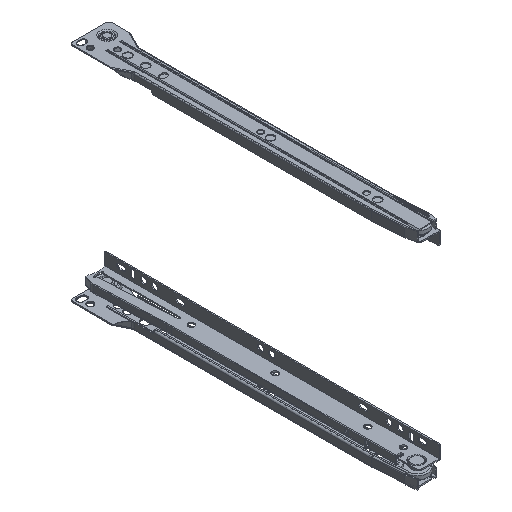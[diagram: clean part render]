
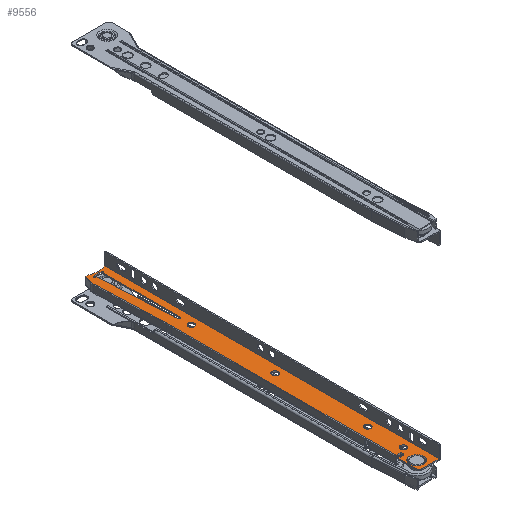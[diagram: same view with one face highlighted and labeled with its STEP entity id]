
A CAD part, isometric view. The second image highlights one B-rep face of the part: STEP entity #9556.
In plain terms, the highlighted planar face has unit normal (0, 0, 1) as drawn and (0, 0, -1) by its records, which use the part's own axes.
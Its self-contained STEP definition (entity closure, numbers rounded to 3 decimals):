
#451=ELLIPSE('',#10430,4.383,1.);
#915=LINE('',#15626,#1704);
#932=LINE('',#15692,#1721);
#949=LINE('',#15753,#1738);
#952=LINE('',#15765,#1741);
#957=LINE('',#15774,#1746);
#959=LINE('',#15781,#1748);
#960=LINE('',#15785,#1749);
#961=LINE('',#15789,#1750);
#962=LINE('',#15793,#1751);
#963=LINE('',#15795,#1752);
#964=LINE('',#15796,#1753);
#965=LINE('',#15809,#1754);
#966=LINE('',#15812,#1755);
#1704=VECTOR('',#12402,10.);
#1721=VECTOR('',#12459,10.);
#1738=VECTOR('',#12522,10.);
#1741=VECTOR('',#12537,10.);
#1746=VECTOR('',#12548,10.);
#1748=VECTOR('',#12556,10.);
#1749=VECTOR('',#12559,10.);
#1750=VECTOR('',#12562,10.);
#1751=VECTOR('',#12565,10.);
#1752=VECTOR('',#12566,10.);
#1753=VECTOR('',#12567,10.);
#1754=VECTOR('',#12578,10.);
#1755=VECTOR('',#12581,10.);
#2204=PLANE('',#10420);
#2414=FACE_BOUND('',#3516,.T.);
#2415=FACE_BOUND('',#3517,.T.);
#2416=FACE_BOUND('',#3518,.T.);
#2417=FACE_BOUND('',#3519,.T.);
#2418=FACE_BOUND('',#3520,.T.);
#2419=FACE_BOUND('',#3521,.T.);
#2862=FACE_OUTER_BOUND('',#3515,.T.);
#3515=EDGE_LOOP('',(#7987,#7988,#7989,#7990,#7991,#7992,#7993,#7994,#7995,
#7996,#7997,#7998,#7999,#8000,#8001,#8002,#8003));
#3516=EDGE_LOOP('',(#8004));
#3517=EDGE_LOOP('',(#8005));
#3518=EDGE_LOOP('',(#8006));
#3519=EDGE_LOOP('',(#8007));
#3520=EDGE_LOOP('',(#8008));
#3521=EDGE_LOOP('',(#8009,#8010,#8011,#8012));
#4036=CIRCLE('',#10369,2.75);
#4038=CIRCLE('',#10372,17.5);
#4064=CIRCLE('',#10414,9.5);
#4065=CIRCLE('',#10421,1.);
#4066=CIRCLE('',#10422,1.);
#4067=CIRCLE('',#10423,1.);
#4068=CIRCLE('',#10424,3.);
#4069=CIRCLE('',#10425,2.75);
#4070=CIRCLE('',#10426,2.75);
#4071=CIRCLE('',#10427,6.25);
#4072=CIRCLE('',#10428,2.75);
#4073=CIRCLE('',#10429,1.03);
#4731=VERTEX_POINT('',#15597);
#4741=VERTEX_POINT('',#15624);
#4743=VERTEX_POINT('',#15630);
#4744=VERTEX_POINT('',#15633);
#4747=VERTEX_POINT('',#15638);
#4770=VERTEX_POINT('',#15690);
#4791=VERTEX_POINT('',#15752);
#4794=VERTEX_POINT('',#15759);
#4795=VERTEX_POINT('',#15772);
#4796=VERTEX_POINT('',#15778);
#4797=VERTEX_POINT('',#15780);
#4798=VERTEX_POINT('',#15782);
#4799=VERTEX_POINT('',#15784);
#4800=VERTEX_POINT('',#15786);
#4801=VERTEX_POINT('',#15788);
#4802=VERTEX_POINT('',#15790);
#4803=VERTEX_POINT('',#15792);
#4804=VERTEX_POINT('',#15794);
#4805=VERTEX_POINT('',#15797);
#4806=VERTEX_POINT('',#15799);
#4807=VERTEX_POINT('',#15801);
#4808=VERTEX_POINT('',#15803);
#4809=VERTEX_POINT('',#15805);
#4810=VERTEX_POINT('',#15806);
#4811=VERTEX_POINT('',#15808);
#4812=VERTEX_POINT('',#15810);
#5862=EDGE_CURVE('',#4731,#4741,#915,.T.);
#5864=EDGE_CURVE('',#4743,#4743,#4036,.T.);
#5868=EDGE_CURVE('',#4747,#4744,#4038,.T.);
#5895=EDGE_CURVE('',#4770,#4747,#932,.T.);
#5924=EDGE_CURVE('',#4791,#4731,#949,.T.);
#5929=EDGE_CURVE('',#4794,#4791,#4064,.T.);
#5931=EDGE_CURVE('',#4770,#4794,#952,.T.);
#5936=EDGE_CURVE('',#4795,#4741,#957,.T.);
#5938=EDGE_CURVE('',#4796,#4795,#4065,.T.);
#5939=EDGE_CURVE('',#4797,#4796,#959,.T.);
#5940=EDGE_CURVE('',#4798,#4797,#4066,.T.);
#5941=EDGE_CURVE('',#4799,#4798,#960,.T.);
#5942=EDGE_CURVE('',#4800,#4799,#4067,.T.);
#5943=EDGE_CURVE('',#4801,#4800,#961,.T.);
#5944=EDGE_CURVE('',#4802,#4801,#4068,.T.);
#5945=EDGE_CURVE('',#4803,#4802,#962,.T.);
#5946=EDGE_CURVE('',#4804,#4803,#963,.T.);
#5947=EDGE_CURVE('',#4744,#4804,#964,.T.);
#5948=EDGE_CURVE('',#4805,#4805,#4069,.T.);
#5949=EDGE_CURVE('',#4806,#4806,#4070,.T.);
#5950=EDGE_CURVE('',#4807,#4807,#4071,.T.);
#5951=EDGE_CURVE('',#4808,#4808,#4072,.T.);
#5952=EDGE_CURVE('',#4809,#4810,#4073,.T.);
#5953=EDGE_CURVE('',#4811,#4809,#965,.T.);
#5954=EDGE_CURVE('',#4812,#4811,#451,.T.);
#5955=EDGE_CURVE('',#4810,#4812,#966,.T.);
#7987=ORIENTED_EDGE('',*,*,#5868,.F.);
#7988=ORIENTED_EDGE('',*,*,#5895,.F.);
#7989=ORIENTED_EDGE('',*,*,#5931,.T.);
#7990=ORIENTED_EDGE('',*,*,#5929,.T.);
#7991=ORIENTED_EDGE('',*,*,#5924,.T.);
#7992=ORIENTED_EDGE('',*,*,#5862,.T.);
#7993=ORIENTED_EDGE('',*,*,#5936,.F.);
#7994=ORIENTED_EDGE('',*,*,#5938,.F.);
#7995=ORIENTED_EDGE('',*,*,#5939,.F.);
#7996=ORIENTED_EDGE('',*,*,#5940,.F.);
#7997=ORIENTED_EDGE('',*,*,#5941,.F.);
#7998=ORIENTED_EDGE('',*,*,#5942,.F.);
#7999=ORIENTED_EDGE('',*,*,#5943,.F.);
#8000=ORIENTED_EDGE('',*,*,#5944,.F.);
#8001=ORIENTED_EDGE('',*,*,#5945,.F.);
#8002=ORIENTED_EDGE('',*,*,#5946,.F.);
#8003=ORIENTED_EDGE('',*,*,#5947,.F.);
#8004=ORIENTED_EDGE('',*,*,#5864,.F.);
#8005=ORIENTED_EDGE('',*,*,#5948,.F.);
#8006=ORIENTED_EDGE('',*,*,#5949,.F.);
#8007=ORIENTED_EDGE('',*,*,#5950,.F.);
#8008=ORIENTED_EDGE('',*,*,#5951,.F.);
#8009=ORIENTED_EDGE('',*,*,#5952,.F.);
#8010=ORIENTED_EDGE('',*,*,#5953,.F.);
#8011=ORIENTED_EDGE('',*,*,#5954,.F.);
#8012=ORIENTED_EDGE('',*,*,#5955,.F.);
#9556=ADVANCED_FACE('',(#2862,#2414,#2415,#2416,#2417,#2418,#2419),#2204,
 .T.);
#10369=AXIS2_PLACEMENT_3D('',#15631,#12407,#12408);
#10372=AXIS2_PLACEMENT_3D('',#15640,#12415,#12416);
#10414=AXIS2_PLACEMENT_3D('',#15762,#12532,#12533);
#10420=AXIS2_PLACEMENT_3D('',#15777,#12552,#12553);
#10421=AXIS2_PLACEMENT_3D('',#15779,#12554,#12555);
#10422=AXIS2_PLACEMENT_3D('',#15783,#12557,#12558);
#10423=AXIS2_PLACEMENT_3D('',#15787,#12560,#12561);
#10424=AXIS2_PLACEMENT_3D('',#15791,#12563,#12564);
#10425=AXIS2_PLACEMENT_3D('',#15798,#12568,#12569);
#10426=AXIS2_PLACEMENT_3D('',#15800,#12570,#12571);
#10427=AXIS2_PLACEMENT_3D('',#15802,#12572,#12573);
#10428=AXIS2_PLACEMENT_3D('',#15804,#12574,#12575);
#10429=AXIS2_PLACEMENT_3D('',#15807,#12576,#12577);
#10430=AXIS2_PLACEMENT_3D('',#15811,#12579,#12580);
#12402=DIRECTION('',(-1.,0.,0.));
#12407=DIRECTION('center_axis',(0.,0.,-1.));
#12408=DIRECTION('ref_axis',(-1.,0.,0.));
#12415=DIRECTION('center_axis',(0.,0.,-1.));
#12416=DIRECTION('ref_axis',(-1.,0.,0.));
#12459=DIRECTION('',(0.,1.,0.));
#12522=DIRECTION('',(-0.999,0.04,0.));
#12532=DIRECTION('center_axis',(0.,0.,-1.));
#12533=DIRECTION('ref_axis',(0.141,-0.99,0.));
#12537=DIRECTION('',(-0.948,-0.318,0.));
#12548=DIRECTION('',(0.,-1.,0.));
#12552=DIRECTION('center_axis',(0.,0.,-1.));
#12553=DIRECTION('ref_axis',(1.,0.,0.));
#12554=DIRECTION('center_axis',(0.,0.,-1.));
#12555=DIRECTION('ref_axis',(0.,1.,0.));
#12556=DIRECTION('',(1.,0.,0.));
#12557=DIRECTION('center_axis',(0.,0.,-1.));
#12558=DIRECTION('ref_axis',(-1.,0.,0.));
#12559=DIRECTION('',(0.,1.,0.));
#12560=DIRECTION('center_axis',(0.,0.,1.));
#12561=DIRECTION('ref_axis',(-1.,0.,0.));
#12562=DIRECTION('',(1.,0.,0.));
#12563=DIRECTION('center_axis',(0.,0.,1.));
#12564=DIRECTION('ref_axis',(0.,1.,0.));
#12565=DIRECTION('',(0.,-1.,0.));
#12566=DIRECTION('',(-1.,0.,0.));
#12567=DIRECTION('',(0.,1.,0.));
#12568=DIRECTION('center_axis',(0.,0.,-1.));
#12569=DIRECTION('ref_axis',(-1.,0.,0.));
#12570=DIRECTION('center_axis',(0.,0.,-1.));
#12571=DIRECTION('ref_axis',(-1.,0.,0.));
#12572=DIRECTION('center_axis',(0.,0.,-1.));
#12573=DIRECTION('ref_axis',(-1.,0.,0.));
#12574=DIRECTION('center_axis',(0.,0.,-1.));
#12575=DIRECTION('ref_axis',(-1.,0.,0.));
#12576=DIRECTION('center_axis',(0.,0.,-1.));
#12577=DIRECTION('ref_axis',(1.,-0.03,0.));
#12578=DIRECTION('',(-0.998,0.061,0.));
#12579=DIRECTION('center_axis',(0.,0.,-1.));
#12580=DIRECTION('ref_axis',(-0.03,-1.,0.));
#12581=DIRECTION('',(1.,0.,0.));
#15597=CARTESIAN_POINT('',(193.766,-28.491,0.));
#15624=CARTESIAN_POINT('',(-9.244,-28.491,0.));
#15626=CARTESIAN_POINT('',(54.172,-28.491,0.));
#15630=CARTESIAN_POINT('',(-3.494,-18.991,0.));
#15631=CARTESIAN_POINT('Origin',(-6.244,-18.991,0.));
#15633=CARTESIAN_POINT('',(268.756,-12.193,0.));
#15638=CARTESIAN_POINT('',(268.756,-26.737,0.));
#15640=CARTESIAN_POINT('Origin',(284.674,-19.465,0.));
#15690=CARTESIAN_POINT('',(268.756,-28.464,0.));
#15692=CARTESIAN_POINT('',(268.756,-31.991,0.));
#15752=CARTESIAN_POINT('',(258.941,-31.098,0.));
#15753=CARTESIAN_POINT('',(155.579,-26.964,0.));
#15759=CARTESIAN_POINT('',(262.339,-30.614,0.));
#15762=CARTESIAN_POINT('Origin',(259.321,-21.606,0.));
#15765=CARTESIAN_POINT('',(197.946,-52.185,0.));
#15772=CARTESIAN_POINT('',(-9.244,-24.991,0.));
#15774=CARTESIAN_POINT('',(-9.244,-24.991,0.));
#15777=CARTESIAN_POINT('Origin',(117.587,-20.317,0.));
#15778=CARTESIAN_POINT('',(-10.244,-23.991,0.));
#15779=CARTESIAN_POINT('Origin',(-10.244,-24.991,0.));
#15780=CARTESIAN_POINT('',(-11.244,-23.991,0.));
#15781=CARTESIAN_POINT('',(-11.244,-23.991,0.));
#15782=CARTESIAN_POINT('',(-12.244,-24.991,0.));
#15783=CARTESIAN_POINT('Origin',(-11.244,-24.991,0.));
#15784=CARTESIAN_POINT('',(-12.244,-28.991,0.));
#15785=CARTESIAN_POINT('',(-12.244,-28.991,0.));
#15786=CARTESIAN_POINT('',(-13.244,-29.991,0.));
#15787=CARTESIAN_POINT('Origin',(-13.244,-28.991,0.));
#15788=CARTESIAN_POINT('',(-28.244,-29.991,0.));
#15789=CARTESIAN_POINT('',(-28.244,-29.991,0.));
#15790=CARTESIAN_POINT('',(-31.244,-26.991,0.));
#15791=CARTESIAN_POINT('Origin',(-28.244,-26.991,0.));
#15792=CARTESIAN_POINT('',(-31.244,-11.991,0.));
#15793=CARTESIAN_POINT('',(-31.244,-10.991,0.));
#15794=CARTESIAN_POINT('',(268.756,-11.991,0.));
#15795=CARTESIAN_POINT('',(118.172,-11.991,0.));
#15796=CARTESIAN_POINT('',(268.756,-31.991,0.));
#15797=CARTESIAN_POINT('',(28.506,-18.991,0.));
#15798=CARTESIAN_POINT('Origin',(25.756,-18.991,0.));
#15799=CARTESIAN_POINT('',(111.506,-18.991,0.));
#15800=CARTESIAN_POINT('Origin',(108.756,-18.991,0.));
#15801=CARTESIAN_POINT('',(-15.994,-22.991,0.));
#15802=CARTESIAN_POINT('Origin',(-22.244,-22.991,0.));
#15803=CARTESIAN_POINT('',(186.506,-18.991,0.));
#15804=CARTESIAN_POINT('Origin',(183.756,-18.991,0.));
#15805=CARTESIAN_POINT('',(194.693,-20.049,0.));
#15806=CARTESIAN_POINT('',(194.756,-17.992,0.));
#15807=CARTESIAN_POINT('Origin',(194.756,-19.021,0.));
#15808=CARTESIAN_POINT('',(263.929,-24.249,0.));
#15809=CARTESIAN_POINT('',(190.908,-19.82,0.));
#15810=CARTESIAN_POINT('',(264.119,-17.992,0.));
#15811=CARTESIAN_POINT('Origin',(264.724,-21.142,0.));
#15812=CARTESIAN_POINT('',(156.172,-17.992,0.));
